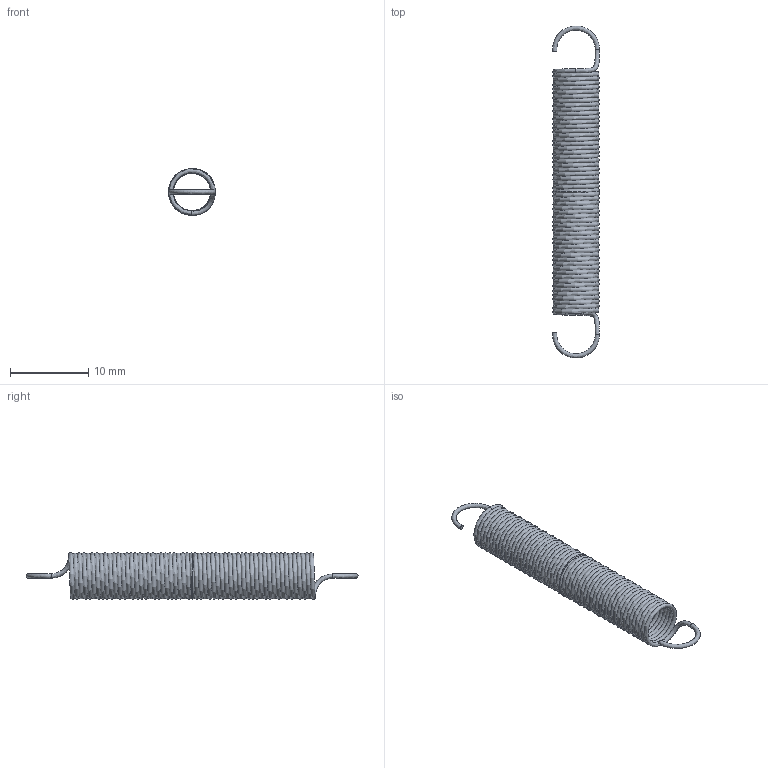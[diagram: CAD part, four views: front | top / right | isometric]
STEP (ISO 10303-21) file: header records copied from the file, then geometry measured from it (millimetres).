
FILE_DESCRIPTION(/* description */ ('7.9 | 0,08 | 0'),/* implementation_level */ '2;1');
FILE_NAME(/* name */ 'T20340.step',/* time_stamp */ '2026-10-05T10:08:03+02:00',/* author */ ('impex-ready.pl'),/* organization */ ('T20340'),/* preprocessor_version */ 'ST-DEVELOPER v20.1',/* originating_system */ 'Autodesk Inventor 2026',/* authorisation */ 'stal nierdzewna');
FILE_SCHEMA (('AUTOMOTIVE_DESIGN { 1 0 10303 214 3 1 1 }'));
Length unit declared in the file: millimetre
Products named in the file (1): T20340
Bounding box: 6 x 42.5 x 6 mm (x, y, z)
Volume: 236.2 mm3; surface area: 1719.7 mm2
Topology: 1 solids, 1 shells, 10 faces, 32 edges, 20 vertices
Faces by surface type: bspline 6, plane 4
Entity records: 10559 total; most frequent: CARTESIAN_POINT 10271, ORIENTED_EDGE 64, DIRECTION 34, EDGE_CURVE 32, B_SPLINE_CURVE_WITH_KNOTS 20, VERTEX_POINT 20, AXIS2_PLACEMENT_3D 17, CIRCLE 12
